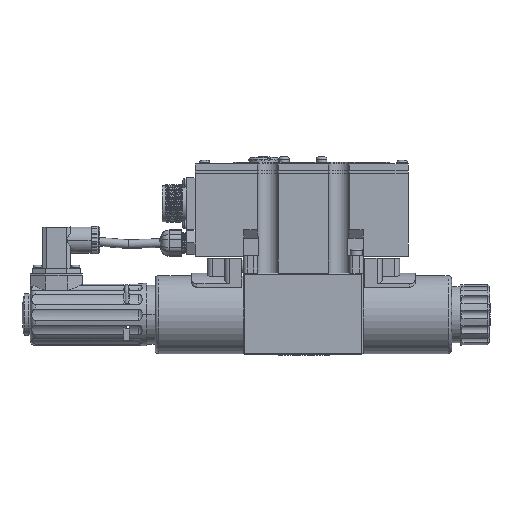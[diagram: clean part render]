
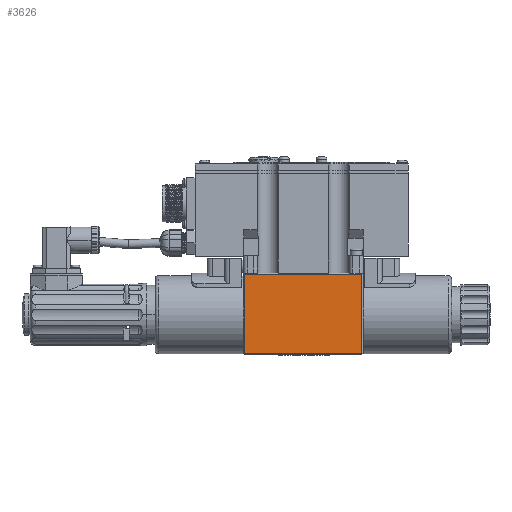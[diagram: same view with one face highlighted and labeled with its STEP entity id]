
A CAD part, front view. The second image highlights one B-rep face of the part: STEP entity #3626.
In plain terms, the highlighted planar face has unit normal (0, -1, 0).
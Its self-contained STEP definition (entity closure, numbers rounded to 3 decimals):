
#2604=FACE_OUTER_BOUND('',#8825,.T.);
#3626=ADVANCED_FACE('',(#2604),#4881,.T.);
#4881=PLANE('',#21522);
#5459=LINE('',#29551,#6693);
#5460=LINE('',#29554,#6694);
#5461=LINE('',#29556,#6695);
#5462=LINE('',#29558,#6696);
#6693=VECTOR('',#23752,1.);
#6694=VECTOR('',#23753,1.);
#6695=VECTOR('',#23754,1.);
#6696=VECTOR('',#23755,1.);
#8825=EDGE_LOOP('',(#10351,#10352,#10353,#10354));
#10351=ORIENTED_EDGE('',*,*,#17722,.T.);
#10352=ORIENTED_EDGE('',*,*,#17723,.T.);
#10353=ORIENTED_EDGE('',*,*,#17724,.T.);
#10354=ORIENTED_EDGE('',*,*,#17725,.T.);
#15905=VERTEX_POINT('',#29552);
#15906=VERTEX_POINT('',#29553);
#15907=VERTEX_POINT('',#29555);
#15908=VERTEX_POINT('',#29557);
#17722=EDGE_CURVE('',#15905,#15906,#5459,.T.);
#17723=EDGE_CURVE('',#15906,#15907,#5460,.T.);
#17724=EDGE_CURVE('',#15907,#15908,#5461,.T.);
#17725=EDGE_CURVE('',#15908,#15905,#5462,.T.);
#21522=AXIS2_PLACEMENT_3D('',#29559,#23756,#23757);
#23752=DIRECTION('',(0.,0.,-1.));
#23753=DIRECTION('',(1.,0.,0.));
#23754=DIRECTION('',(0.,0.,1.));
#23755=DIRECTION('',(-1.,0.,0.));
#23756=DIRECTION('',(0.,-1.,0.));
#23757=DIRECTION('',(0.,0.,1.));
#29551=CARTESIAN_POINT('',(0.7,-22.,-23.));
#29552=CARTESIAN_POINT('',(0.7,-22.,23.3));
#29553=CARTESIAN_POINT('',(0.7,-22.,-22.3));
#29554=CARTESIAN_POINT('',(34.5,-22.,-22.3));
#29555=CARTESIAN_POINT('',(68.3,-22.,-22.3));
#29556=CARTESIAN_POINT('',(68.3,-22.,-23.));
#29557=CARTESIAN_POINT('',(68.3,-22.,23.3));
#29558=CARTESIAN_POINT('',(34.5,-22.,23.3));
#29559=CARTESIAN_POINT('',(34.5,-22.,-23.));
